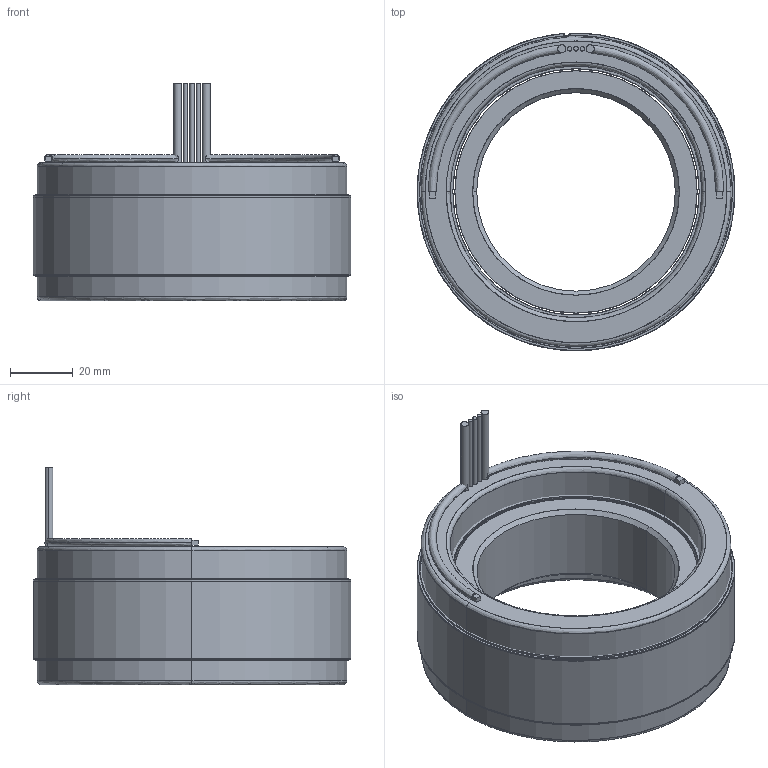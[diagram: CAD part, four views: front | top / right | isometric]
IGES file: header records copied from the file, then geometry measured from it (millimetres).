
Start section: SolidWorks IGES file using analytic representation for surfaces
Global section: file name: \\fs01.aveox.local\user documents\eng\My Documents\STANDARD STATOR ROTOR SETS\NEW DIRECT DRIVE MOTOR\4 OD 27S24P\6100339-03.IGS; native system: SolidWorks 2016; preprocessor: SolidWorks 2016; author: eng; date: 191023.141728; units: millimetre
Bounding box: 101.6 x 101.57 x 69.6 mm (x, y, z)
Surface area: 91883.5 mm2 (no closed solid volume)
Topology: 0 solids, 0 shells, 109 faces, 2502 edges, 2502 vertices
Faces by surface type: bspline 56, revolution 53
